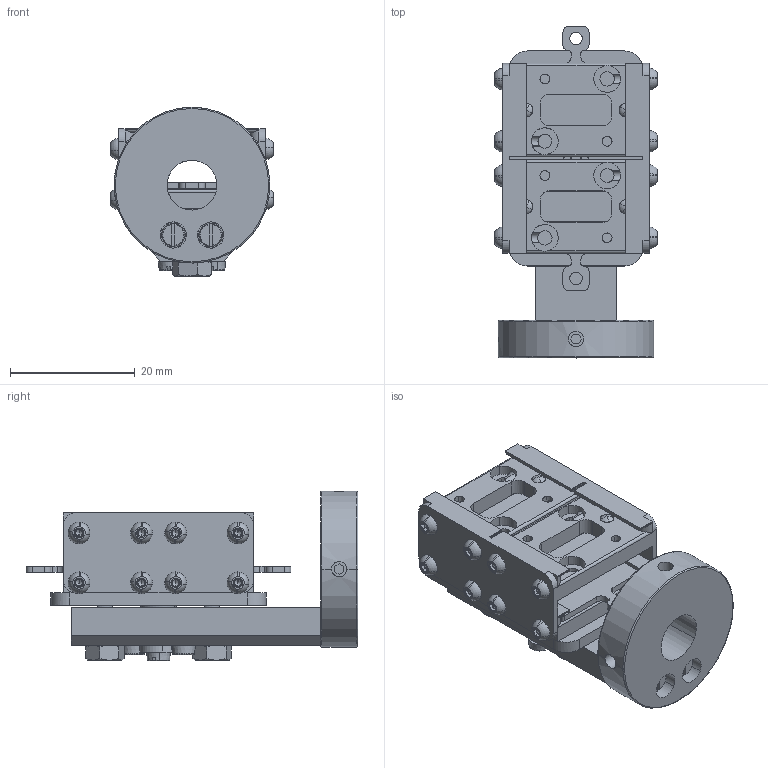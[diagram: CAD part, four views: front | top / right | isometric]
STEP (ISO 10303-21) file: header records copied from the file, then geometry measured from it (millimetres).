
FILE_DESCRIPTION(('CATIA V5 STEP Exchange','CAx-IF Rec.Pracs.--- Model Styling and Organization---1.2---2011-12-15'),'2;1');
FILE_NAME('W:\KONSTRUKTION\PRODUCTS\RSC\RSC4OM\RSC4OM.stp','2022-04-19T11:12:44+00:00',('none'),('none'),'CATIA Version 5 Release 21 SP 6 (IN-10)','CATIA V5 STEP AP214 Edition 3','none');
FILE_SCHEMA(('AUTOMOTIVE_DESIGN { 1 0 10303 214 3 1 1 1 }'));
Products named in the file (1): RSC4OM
Bounding box: 26.1 x 53.25 x 27.2 mm (x, y, z)
Volume: 11977.2 mm3; surface area: 13578.8 mm2
Topology: 5 solids, 25 shells, 1829 faces, 4799 edges, 2936 vertices
Faces by surface type: plane 569, cylinder 456, cone 361, sphere 288, torus 155
Entity records: 59198 total; most frequent: CARTESIAN_POINT 18019, ORIENTED_EDGE 9414, DIRECTION 6702, EDGE_CURVE 4683, AXIS2_PLACEMENT_3D 3327, VERTEX_POINT 2936, EDGE_LOOP 2079, ADVANCED_FACE 1829
